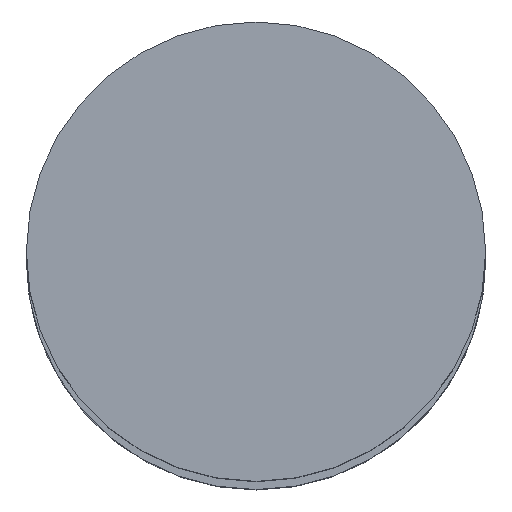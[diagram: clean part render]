
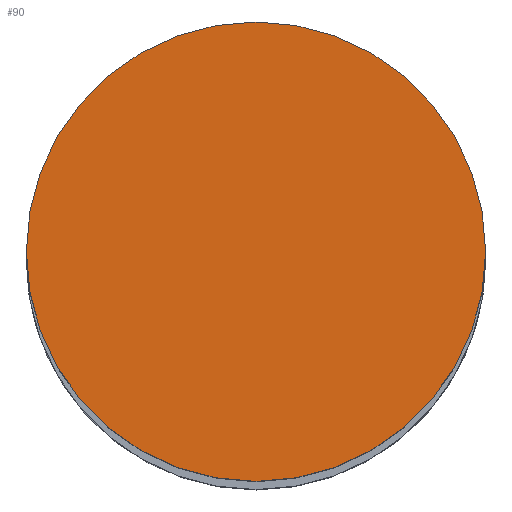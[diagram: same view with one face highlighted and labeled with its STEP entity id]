
A CAD part, top view. The second image highlights one B-rep face of the part: STEP entity #90.
In plain terms, the highlighted planar face has unit normal (0, 0, 1).
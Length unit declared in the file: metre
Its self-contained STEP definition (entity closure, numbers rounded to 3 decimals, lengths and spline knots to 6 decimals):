
#90=ADVANCED_FACE('25:217',(#177),#178,.T.);
#177=FACE_OUTER_BOUND('',#264,.T.);
#178=PLANE('',#265);
#264=EDGE_LOOP('',(#412,#413));
#265=AXIS2_PLACEMENT_3D('',#414,#415,#416);
#412=ORIENTED_EDGE('',*,*,#545,.F.);
#413=ORIENTED_EDGE('',*,*,#538,.F.);
#414=CARTESIAN_POINT('',(0.0,0.0,2.984));
#415=DIRECTION('',(0.0,0.0,1.0));
#416=DIRECTION('',(1.0,0.0,0.0));
#538=EDGE_CURVE('',#649,#651,#652,.F.);
#545=EDGE_CURVE('',#651,#649,#660,.F.);
#649=VERTEX_POINT('',#786);
#651=VERTEX_POINT('',#789);
#652=CIRCLE('',#790,0.0155);
#660=CIRCLE('',#799,0.0155);
#786=CARTESIAN_POINT('',(0.015408,0.000095,2.984));
#789=CARTESIAN_POINT('',(-0.015592,0.000095,2.984));
#790=AXIS2_PLACEMENT_3D('',#906,#907,#908);
#799=AXIS2_PLACEMENT_3D('',#919,#920,#921);
#906=CARTESIAN_POINT('',(-0.000092,0.000095,2.984));
#907=DIRECTION('',(0.0,0.0,1.0));
#908=DIRECTION('',(1.0,0.0,0.0));
#919=CARTESIAN_POINT('',(-0.000092,0.000095,2.984));
#920=DIRECTION('',(0.0,0.0,1.0));
#921=DIRECTION('',(1.0,0.0,0.0));
